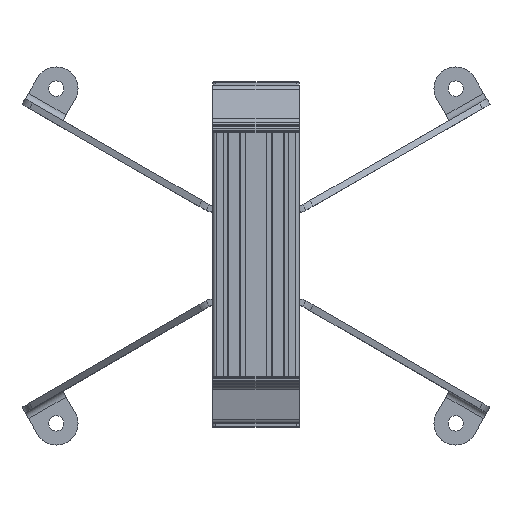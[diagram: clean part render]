
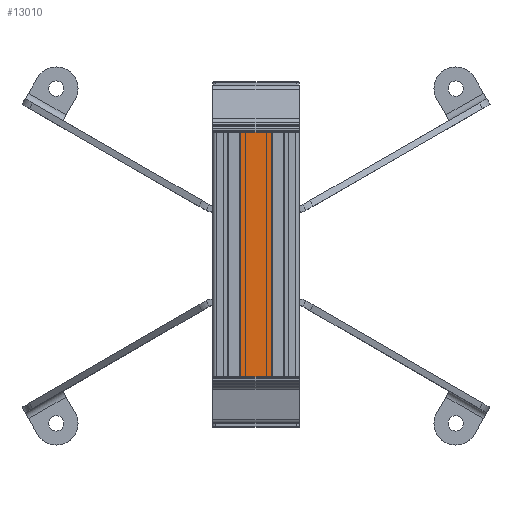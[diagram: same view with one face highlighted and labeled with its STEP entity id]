
A CAD part, top view. The second image highlights one B-rep face of the part: STEP entity #13010.
In plain terms, the highlighted planar face has unit normal (0, 0, 1) as drawn and (0, 1, 0) by its records, which use the part's own axes.
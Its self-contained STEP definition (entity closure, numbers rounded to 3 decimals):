
#12952=CARTESIAN_POINT('',(-14.,20.,110.));
#12953=VERTEX_POINT('',#12952);
#12961=CARTESIAN_POINT('',(-14.,20.,-200.0));
#12962=VERTEX_POINT('',#12961);
#12963=CARTESIAN_POINT('',(-14.,20.,-200.0));
#12964=DIRECTION('',(0.0,0.0,1.0));
#12965=VECTOR('',#12964,310.);
#12966=LINE('',#12963,#12965);
#12967=EDGE_CURVE('',#12962,#12953,#12966,.T.);
#12980=CARTESIAN_POINT('',(0.,20.,-200.0));
#12981=DIRECTION('',(0.0,1.0,0.0));
#12982=DIRECTION('',(0.0,0.0,1.0));
#12983=AXIS2_PLACEMENT_3D('',#12980,#12981,#12982);
#12984=PLANE('',#12983);
#12985=CARTESIAN_POINT('',(14.,20.,110.));
#12986=VERTEX_POINT('',#12985);
#12987=CARTESIAN_POINT('',(-14.,20.,110.0));
#12988=DIRECTION('',(1.0,0.0,0.0));
#12989=VECTOR('',#12988,28.);
#12990=LINE('',#12987,#12989);
#12991=EDGE_CURVE('',#12953,#12986,#12990,.T.);
#12992=ORIENTED_EDGE('',*,*,#12991,.T.);
#12993=CARTESIAN_POINT('',(14.,20.,-200.0));
#12994=VERTEX_POINT('',#12993);
#12995=CARTESIAN_POINT('',(14.,20.,-200.0));
#12996=DIRECTION('',(0.0,0.0,1.0));
#12997=VECTOR('',#12996,310.);
#12998=LINE('',#12995,#12997);
#12999=EDGE_CURVE('',#12994,#12986,#12998,.T.);
#13000=ORIENTED_EDGE('',*,*,#12999,.F.);
#13001=CARTESIAN_POINT('',(-14.,20.,-200.0));
#13002=DIRECTION('',(1.0,0.0,0.0));
#13003=VECTOR('',#13002,28.);
#13004=LINE('',#13001,#13003);
#13005=EDGE_CURVE('',#12962,#12994,#13004,.T.);
#13006=ORIENTED_EDGE('',*,*,#13005,.F.);
#13007=ORIENTED_EDGE('',*,*,#12967,.T.);
#13008=EDGE_LOOP('',(#12992,#13000,#13006,#13007));
#13009=FACE_OUTER_BOUND('',#13008,.T.);
#13010=ADVANCED_FACE('',(#13009),#12984,.T.);
